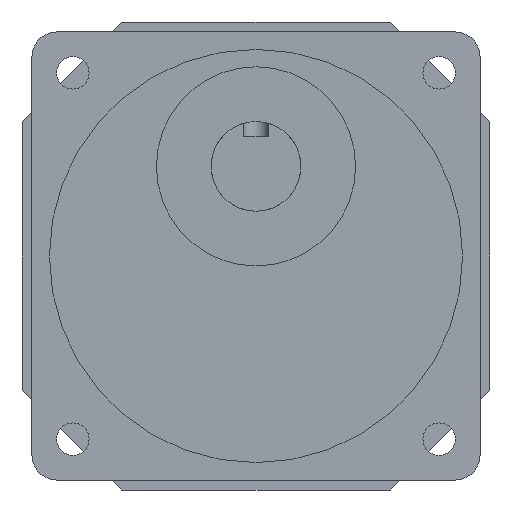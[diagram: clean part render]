
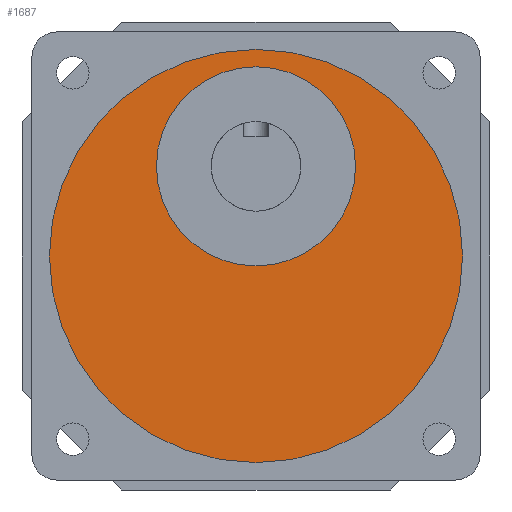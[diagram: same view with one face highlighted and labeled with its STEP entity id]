
A CAD part, front view. The second image highlights one B-rep face of the part: STEP entity #1687.
In plain terms, the highlighted planar face has unit normal (0, -1, 0).
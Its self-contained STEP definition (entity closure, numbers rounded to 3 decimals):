
#72 = DIRECTION ( 'NONE',  ( 0., 0., -1. ) ) ;
#170 = VERTEX_POINT ( 'NONE', #1987 ) ;
#204 = VERTEX_POINT ( 'NONE', #1007 ) ;
#484 = CARTESIAN_POINT ( 'NONE',  ( 45., -83., 3.5 ) ) ;
#638 = DIRECTION ( 'NONE',  ( 0., -1., 0. ) ) ;
#1001 = AXIS2_PLACEMENT_3D ( 'NONE', #5849, #1308, #1764 ) ;
#1007 = CARTESIAN_POINT ( 'NONE',  ( 45., -83., 83. ) ) ;
#1028 = CIRCLE ( 'NONE', #4984, 41.5 ) ;
#1032 = FACE_BOUND ( 'NONE', #2095, .T. ) ;
#1062 = DIRECTION ( 'NONE',  ( 0., 0., -1. ) ) ;
#1203 = ORIENTED_EDGE ( 'NONE', *, *, #4890, .T. ) ;
#1230 = CIRCLE ( 'NONE', #5381, 20. ) ;
#1244 = AXIS2_PLACEMENT_3D ( 'NONE', #4323, #2560, #1676 ) ;
#1306 = CIRCLE ( 'NONE', #1001, 20. ) ;
#1308 = DIRECTION ( 'NONE',  ( 0., -1., 0. ) ) ;
#1676 = DIRECTION ( 'NONE',  ( 0., 0., -1. ) ) ;
#1687 = ADVANCED_FACE ( 'NONE', ( #1032, #1972 ), #2465, .T. ) ;
#1764 = DIRECTION ( 'NONE',  ( 0., 0., -1. ) ) ;
#1972 = FACE_OUTER_BOUND ( 'NONE', #5262, .T. ) ;
#1987 = CARTESIAN_POINT ( 'NONE',  ( 45., -83., 86.5 ) ) ;
#2095 = EDGE_LOOP ( 'NONE', ( #4939, #5277 ) ) ;
#2465 = PLANE ( 'NONE',  #3493 ) ;
#2560 = DIRECTION ( 'NONE',  ( 0., -1., 0. ) ) ;
#2720 = EDGE_CURVE ( 'NONE', #204, #4535, #1306, .T. ) ;
#2921 = VERTEX_POINT ( 'NONE', #484 ) ;
#3121 = DIRECTION ( 'NONE',  ( 0., 0., -1. ) ) ;
#3241 = DIRECTION ( 'NONE',  ( 0., -1., 0. ) ) ;
#3493 = AXIS2_PLACEMENT_3D ( 'NONE', #3804, #638, #1062 ) ;
#3678 = CARTESIAN_POINT ( 'NONE',  ( 45., -83., 45. ) ) ;
#3804 = CARTESIAN_POINT ( 'NONE',  ( 45., -83., 45. ) ) ;
#3907 = ORIENTED_EDGE ( 'NONE', *, *, #5171, .T. ) ;
#3993 = DIRECTION ( 'NONE',  ( 0., -1., 0. ) ) ;
#4323 = CARTESIAN_POINT ( 'NONE',  ( 45., -83., 45. ) ) ;
#4482 = CIRCLE ( 'NONE', #1244, 41.5 ) ;
#4535 = VERTEX_POINT ( 'NONE', #4699 ) ;
#4699 = CARTESIAN_POINT ( 'NONE',  ( 45., -83., 43. ) ) ;
#4890 = EDGE_CURVE ( 'NONE', #2921, #170, #1028, .T. ) ;
#4939 = ORIENTED_EDGE ( 'NONE', *, *, #2720, .F. ) ;
#4984 = AXIS2_PLACEMENT_3D ( 'NONE', #3678, #3241, #72 ) ;
#5171 = EDGE_CURVE ( 'NONE', #170, #2921, #4482, .T. ) ;
#5262 = EDGE_LOOP ( 'NONE', ( #1203, #3907 ) ) ;
#5277 = ORIENTED_EDGE ( 'NONE', *, *, #5325, .F. ) ;
#5325 = EDGE_CURVE ( 'NONE', #4535, #204, #1230, .T. ) ;
#5381 = AXIS2_PLACEMENT_3D ( 'NONE', #5819, #3993, #3121 ) ;
#5819 = CARTESIAN_POINT ( 'NONE',  ( 45., -83., 63. ) ) ;
#5849 = CARTESIAN_POINT ( 'NONE',  ( 45., -83., 63. ) ) ;
